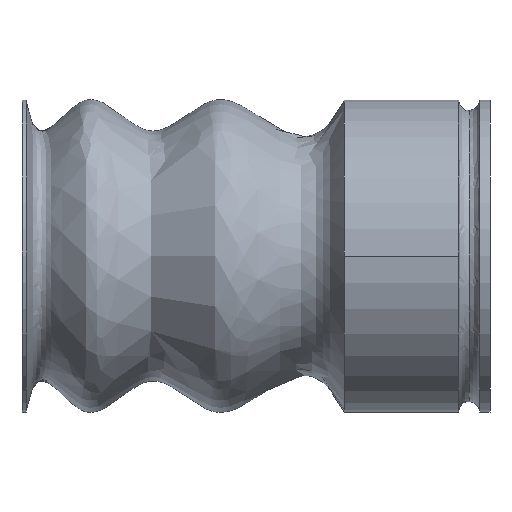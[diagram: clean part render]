
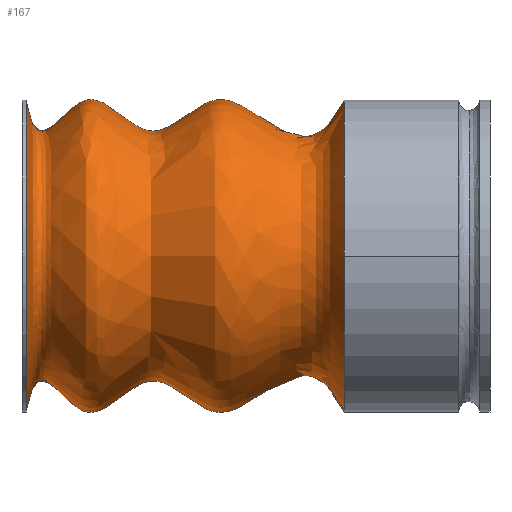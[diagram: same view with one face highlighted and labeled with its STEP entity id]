
A CAD part, front view. The second image highlights one B-rep face of the part: STEP entity #167.
In plain terms, the highlighted free-form (B-spline) face has degree [3, 3] with [7, 4] control points.
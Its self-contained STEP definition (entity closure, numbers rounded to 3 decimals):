
#16 = EDGE_CURVE ( 'NONE', #812, #768, #721, .T. ) ;
#20 = VERTEX_POINT ( 'NONE', #199 ) ;
#33 = VERTEX_POINT ( 'NONE', #837 ) ;
#59 = EDGE_CURVE ( 'NONE', #768, #347, #882, .T. ) ;
#71 = AXIS2_PLACEMENT_3D ( 'NONE', #651, #575, #359 ) ;
#77 = CARTESIAN_POINT ( 'NONE',  ( 2.826, 0., 9.667 ) ) ;
#104 = CARTESIAN_POINT ( 'NONE',  ( 15.5, -7.5, 0. ) ) ;
#106 = CARTESIAN_POINT ( 'NONE',  ( 0.745, 0., 4.283 ) ) ;
#150 = CARTESIAN_POINT ( 'NONE',  ( 2.826, -19.334, 9.667 ) ) ;
#167 = ADVANCED_FACE ( 'NONE', ( #573 ), #794, .T. ) ;
#171 = CARTESIAN_POINT ( 'NONE',  ( 2.826, -19.334, -9.667 ) ) ;
#179 = EDGE_CURVE ( 'NONE', #33, #812, #369, .T. ) ;
#185 = CARTESIAN_POINT ( 'NONE',  ( 0.2, 0., -7.5 ) ) ;
#199 = CARTESIAN_POINT ( 'NONE',  ( 0.2, 0., -7.5 ) ) ;
#201 = ORIENTED_EDGE ( 'NONE', *, *, #179, .T. ) ;
#211 = CARTESIAN_POINT ( 'NONE',  ( 6.216, 0., -4.508 ) ) ;
#224 = CARTESIAN_POINT ( 'NONE',  ( 0.745, -8.566, 4.283 ) ) ;
#276 = CARTESIAN_POINT ( 'NONE',  ( 10.296, 0., -10.111 ) ) ;
#280 = CARTESIAN_POINT ( 'NONE',  ( 0.745, -8.566, -4.283 ) ) ;
#281 = CARTESIAN_POINT ( 'NONE',  ( 2.826, 0., -9.667 ) ) ;
#289 = CARTESIAN_POINT ( 'NONE',  ( 6.216, 0., 4.508 ) ) ;
#294 = CARTESIAN_POINT ( 'NONE',  ( 10.296, 0., 10.111 ) ) ;
#316 = DIRECTION ( 'NONE',  ( 0., 0., 1. ) ) ;
#320 = DIRECTION ( 'NONE',  ( -1., 0., 0. ) ) ;
#321 = AXIS2_PLACEMENT_3D ( 'NONE', #649, #770, #440 ) ;
#330 = CARTESIAN_POINT ( 'NONE',  ( 15.5, 0., 7.5 ) ) ;
#347 = VERTEX_POINT ( 'NONE', #803 ) ;
#350 = CARTESIAN_POINT ( 'NONE',  ( 0.2, 0., -7.5 ) ) ;
#359 = DIRECTION ( 'NONE',  ( 0., 0., 1. ) ) ;
#369 = CIRCLE ( 'NONE', #685, 7.5 ) ;
#381 = CARTESIAN_POINT ( 'NONE',  ( 0.745, 0., -4.283 ) ) ;
#391 = CARTESIAN_POINT ( 'NONE',  ( 15.5, -15., 7.5 ) ) ;
#430 = ORIENTED_EDGE ( 'NONE', *, *, #59, .T. ) ;
#440 = DIRECTION ( 'NONE',  ( 0., 0., 1. ) ) ;
#454 = ORIENTED_EDGE ( 'NONE', *, *, #904, .T. ) ;
#488 = EDGE_LOOP ( 'NONE', ( #201, #659, #430, #635, #454 ) ) ;
#504 = CARTESIAN_POINT ( 'NONE',  ( 10.296, -20.222, -10.111 ) ) ;
#505 = CARTESIAN_POINT ( 'NONE',  ( 13.448, 0., 3.377 ) ) ;
#506 = CARTESIAN_POINT ( 'NONE',  ( 15.5, 0., -7.5 ) ) ;
#552 = CARTESIAN_POINT ( 'NONE',  ( 0.2, -15., -7.5 ) ) ;
#573 = FACE_OUTER_BOUND ( 'NONE', #488, .T. ) ;
#575 = DIRECTION ( 'NONE',  ( -1., 0., 0. ) ) ;
#587 = CARTESIAN_POINT ( 'NONE',  ( 2.826, 0., 9.667 ) ) ;
#603 = CIRCLE ( 'NONE', #321, 7.5 ) ;
#605 = CARTESIAN_POINT ( 'NONE',  ( 6.216, -9.015, -4.508 ) ) ;
#635 = ORIENTED_EDGE ( 'NONE', *, *, #753, .T. ) ;
#649 = CARTESIAN_POINT ( 'NONE',  ( 0.2, 0., 0. ) ) ;
#651 = CARTESIAN_POINT ( 'NONE',  ( 15.5, 0., 0. ) ) ;
#652 = CARTESIAN_POINT ( 'NONE',  ( 13.448, 0., -3.377 ) ) ;
#659 = ORIENTED_EDGE ( 'NONE', *, *, #16, .T. ) ;
#662 = CARTESIAN_POINT ( 'NONE',  ( 13.448, -6.754, -3.377 ) ) ;
#671 = CARTESIAN_POINT ( 'NONE',  ( 15.5, 0., -7.5 ) ) ;
#674 = CARTESIAN_POINT ( 'NONE',  ( 0.2, -15., 7.5 ) ) ;
#685 = AXIS2_PLACEMENT_3D ( 'NONE', #890, #320, #316 ) ;
#714 = CARTESIAN_POINT ( 'NONE',  ( 13.448, -6.754, 3.377 ) ) ;
#719 = CARTESIAN_POINT ( 'NONE',  ( 2.826, 0., -9.667 ) ) ;
#721 = CIRCLE ( 'NONE', #71, 7.5 ) ;
#723 = CARTESIAN_POINT ( 'NONE',  ( 0.745, 0., -4.283 ) ) ;
#733 = CARTESIAN_POINT ( 'NONE',  ( 0.2, 0., 7.5 ) ) ;
#737 = CARTESIAN_POINT ( 'NONE',  ( 6.216, -9.015, 4.508 ) ) ;
#742 = CARTESIAN_POINT ( 'NONE',  ( 10.296, -20.222, 10.111 ) ) ;
#749 = CARTESIAN_POINT ( 'NONE',  ( 13.448, 0., -3.377 ) ) ;
#753 = EDGE_CURVE ( 'NONE', #347, #20, #603, .T. ) ;
#761 = B_SPLINE_CURVE_WITH_KNOTS ( 'NONE', 3,
 ( #185, #381, #281, #211, #276, #652, #506 ),
 .UNSPECIFIED., .F., .F.,
 ( 4, 1, 1, 1, 4 ),
 ( 0., 0.233, 0.426, 0.618, 1. ),
 .UNSPECIFIED. ) ;
#768 = VERTEX_POINT ( 'NONE', #330 ) ;
#770 = DIRECTION ( 'NONE',  ( 1., 0., 0. ) ) ;
#781 = CARTESIAN_POINT ( 'NONE',  ( 6.216, 0., -4.508 ) ) ;
#786 = CARTESIAN_POINT ( 'NONE',  ( 10.296, 0., 10.111 ) ) ;
#794 =( BOUNDED_SURFACE ( )  B_SPLINE_SURFACE ( 3, 3, ( 
 ( #350, #552, #674, #733 ),
 ( #723, #280, #224, #856 ),
 ( #719, #171, #150, #77 ),
 ( #781, #605, #737, #907 ),
 ( #834, #504, #742, #786 ),
 ( #749, #662, #714, #879 ),
 ( #671, #849, #391, #869 ) ),
 .UNSPECIFIED., .F., .F., .T. ) 
 B_SPLINE_SURFACE_WITH_KNOTS ( ( 4, 1, 1, 1, 4 ),
 ( 4, 4 ),
 ( 0., 0.233, 0.426, 0.618, 1. ),
 ( 0., 1. ),
 .UNSPECIFIED. ) 
 GEOMETRIC_REPRESENTATION_ITEM ( )  RATIONAL_B_SPLINE_SURFACE ( (
 ( 1., 0.333, 0.333, 1.),
 ( 1., 0.333, 0.333, 1.),
 ( 1., 0.333, 0.333, 1.),
 ( 1., 0.333, 0.333, 1.),
 ( 1., 0.333, 0.333, 1.),
 ( 1., 0.333, 0.333, 1.),
 ( 1., 0.333, 0.333, 1.) ) ) 
 REPRESENTATION_ITEM ( '' )  SURFACE ( )  );
#803 = CARTESIAN_POINT ( 'NONE',  ( 0.2, 0., 7.5 ) ) ;
#812 = VERTEX_POINT ( 'NONE', #104 ) ;
#834 = CARTESIAN_POINT ( 'NONE',  ( 10.296, 0., -10.111 ) ) ;
#837 = CARTESIAN_POINT ( 'NONE',  ( 15.5, 0., -7.5 ) ) ;
#843 = CARTESIAN_POINT ( 'NONE',  ( 15.5, 0., 7.5 ) ) ;
#849 = CARTESIAN_POINT ( 'NONE',  ( 15.5, -15., -7.5 ) ) ;
#852 = CARTESIAN_POINT ( 'NONE',  ( 0.2, 0., 7.5 ) ) ;
#856 = CARTESIAN_POINT ( 'NONE',  ( 0.745, 0., 4.283 ) ) ;
#869 = CARTESIAN_POINT ( 'NONE',  ( 15.5, 0., 7.5 ) ) ;
#879 = CARTESIAN_POINT ( 'NONE',  ( 13.448, 0., 3.377 ) ) ;
#882 = B_SPLINE_CURVE_WITH_KNOTS ( 'NONE', 3,
 ( #843, #505, #294, #289, #587, #106, #852 ),
 .UNSPECIFIED., .F., .F.,
 ( 4, 1, 1, 1, 4 ),
 ( 0., 0.382, 0.574, 0.767, 1. ),
 .UNSPECIFIED. ) ;
#890 = CARTESIAN_POINT ( 'NONE',  ( 15.5, 0., 0. ) ) ;
#904 = EDGE_CURVE ( 'NONE', #20, #33, #761, .T. ) ;
#907 = CARTESIAN_POINT ( 'NONE',  ( 6.216, 0., 4.508 ) ) ;
